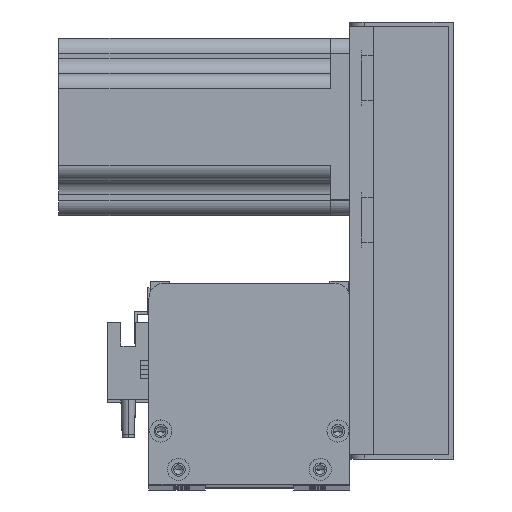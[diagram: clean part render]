
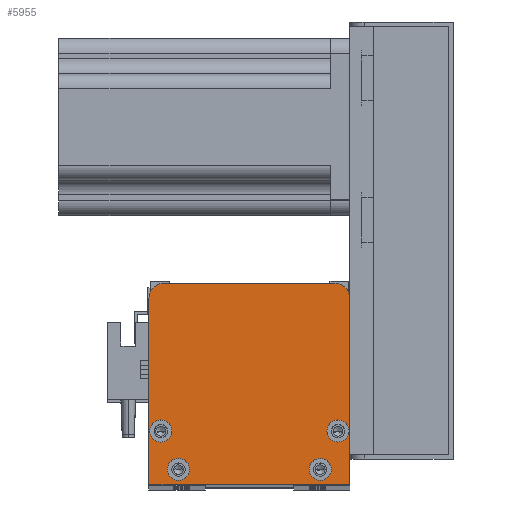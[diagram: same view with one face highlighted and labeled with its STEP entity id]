
A CAD part, top view. The second image highlights one B-rep face of the part: STEP entity #5955.
In plain terms, the highlighted planar face has unit normal (0, 0, 1).
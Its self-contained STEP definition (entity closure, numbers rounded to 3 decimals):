
#550 = CARTESIAN_POINT ( 'NONE',  ( 64., 18., 64. ) ) ;
#800 = CARTESIAN_POINT ( 'NONE',  ( 13.75, 5., 64. ) ) ;
#993 = EDGE_LOOP ( 'NONE', ( #11981, #7072 ) ) ;
#1032 = ORIENTED_EDGE ( 'NONE', *, *, #27610, .T. ) ;
#1228 = DIRECTION ( 'NONE',  ( 1., 0., 0. ) ) ;
#1304 = EDGE_CURVE ( 'NONE', #25345, #24108, #27240, .T. ) ;
#1311 = DIRECTION ( 'NONE',  ( 0., 0., 1. ) ) ;
#1542 = EDGE_CURVE ( 'NONE', #28177, #10509, #8511, .T. ) ;
#1931 = EDGE_CURVE ( 'NONE', #6952, #27049, #15950, .T. ) ;
#2111 = EDGE_CURVE ( 'NONE', #19552, #16239, #5982, .T. ) ;
#2239 = AXIS2_PLACEMENT_3D ( 'NONE', #26535, #6458, #24577 ) ;
#2373 = CARTESIAN_POINT ( 'NONE',  ( 5., 63., 64. ) ) ;
#2764 = DIRECTION ( 'NONE',  ( 0., 0., 1. ) ) ;
#2811 = ORIENTED_EDGE ( 'NONE', *, *, #13289, .F. ) ;
#3011 = CIRCLE ( 'NONE', #22827, 3.75 ) ;
#3163 = CARTESIAN_POINT ( 'NONE',  ( 10., 5., 64. ) ) ;
#3224 = ORIENTED_EDGE ( 'NONE', *, *, #23639, .F. ) ;
#3382 = CARTESIAN_POINT ( 'NONE',  ( 67.75, 18., 64. ) ) ;
#4022 = CARTESIAN_POINT ( 'NONE',  ( 61.75, 5., 64. ) ) ;
#4062 = DIRECTION ( 'NONE',  ( 0., 0., 1. ) ) ;
#4384 = DIRECTION ( 'NONE',  ( 0., 0., 1. ) ) ;
#4400 = VERTEX_POINT ( 'NONE', #12531 ) ;
#4544 = ORIENTED_EDGE ( 'NONE', *, *, #26927, .F. ) ;
#4779 = EDGE_CURVE ( 'NONE', #21329, #25345, #26345, .T. ) ;
#5279 = CARTESIAN_POINT ( 'NONE',  ( 4., 18., 64. ) ) ;
#5955 = ADVANCED_FACE ( 'NONE', ( #24538, #25580, #6111, #23102, #7526 ), #11297, .T. ) ;
#5982 = CIRCLE ( 'NONE', #10410, 3.75 ) ;
#6111 = FACE_BOUND ( 'NONE', #993, .T. ) ;
#6236 = ORIENTED_EDGE ( 'NONE', *, *, #1304, .T. ) ;
#6308 = DIRECTION ( 'NONE',  ( 1., 0., 0. ) ) ;
#6454 = CARTESIAN_POINT ( 'NONE',  ( 0., 0., 64. ) ) ;
#6458 = DIRECTION ( 'NONE',  ( 0., 0., 1. ) ) ;
#6952 = VERTEX_POINT ( 'NONE', #13082 ) ;
#7072 = ORIENTED_EDGE ( 'NONE', *, *, #1931, .F. ) ;
#7526 = FACE_OUTER_BOUND ( 'NONE', #12685, .T. ) ;
#7624 = CARTESIAN_POINT ( 'NONE',  ( 64., 18., 64. ) ) ;
#7700 = VERTEX_POINT ( 'NONE', #22662 ) ;
#8081 = AXIS2_PLACEMENT_3D ( 'NONE', #7624, #21273, #23544 ) ;
#8352 = CARTESIAN_POINT ( 'NONE',  ( 4., 18., 64. ) ) ;
#8395 = DIRECTION ( 'NONE',  ( 0., 1., 0. ) ) ;
#8465 = AXIS2_PLACEMENT_3D ( 'NONE', #2373, #2764, #27564 ) ;
#8511 = CIRCLE ( 'NONE', #13056, 3.75 ) ;
#8756 = ORIENTED_EDGE ( 'NONE', *, *, #1542, .F. ) ;
#9207 = ORIENTED_EDGE ( 'NONE', *, *, #2111, .F. ) ;
#9240 = CARTESIAN_POINT ( 'NONE',  ( 7.75, 18., 64. ) ) ;
#9787 = DIRECTION ( 'NONE',  ( 0., 0., 1. ) ) ;
#10397 = CIRCLE ( 'NONE', #27365, 3.75 ) ;
#10410 = AXIS2_PLACEMENT_3D ( 'NONE', #12683, #17350, #21553 ) ;
#10509 = VERTEX_POINT ( 'NONE', #3382 ) ;
#10604 = LINE ( 'NONE', #23451, #17676 ) ;
#10827 = EDGE_CURVE ( 'NONE', #13210, #4400, #22410, .T. ) ;
#11147 = CARTESIAN_POINT ( 'NONE',  ( 0., 0., 64. ) ) ;
#11297 = PLANE ( 'NONE',  #17126 ) ;
#11908 = VERTEX_POINT ( 'NONE', #11147 ) ;
#11981 = ORIENTED_EDGE ( 'NONE', *, *, #24836, .F. ) ;
#12188 = DIRECTION ( 'NONE',  ( 0., 0., 1. ) ) ;
#12531 = CARTESIAN_POINT ( 'NONE',  ( 0., 63., 64. ) ) ;
#12536 = DIRECTION ( 'NONE',  ( 1., 0., 0. ) ) ;
#12545 = CARTESIAN_POINT ( 'NONE',  ( 68., 0., 64. ) ) ;
#12683 = CARTESIAN_POINT ( 'NONE',  ( 58., 5., 64. ) ) ;
#12685 = EDGE_LOOP ( 'NONE', ( #28118, #23896, #14455, #1032, #15177, #6236 ) ) ;
#12701 = EDGE_LOOP ( 'NONE', ( #3224, #4544 ) ) ;
#13056 = AXIS2_PLACEMENT_3D ( 'NONE', #550, #9787, #18812 ) ;
#13082 = CARTESIAN_POINT ( 'NONE',  ( 6.25, 5., 64. ) ) ;
#13091 = DIRECTION ( 'NONE',  ( 1., 0., 0. ) ) ;
#13210 = VERTEX_POINT ( 'NONE', #28653 ) ;
#13289 = EDGE_CURVE ( 'NONE', #16239, #19552, #23884, .T. ) ;
#13416 = CARTESIAN_POINT ( 'NONE',  ( 68., 0., 64. ) ) ;
#14455 = ORIENTED_EDGE ( 'NONE', *, *, #23876, .T. ) ;
#14611 = AXIS2_PLACEMENT_3D ( 'NONE', #22829, #4062, #6308 ) ;
#15177 = ORIENTED_EDGE ( 'NONE', *, *, #4779, .T. ) ;
#15293 = CIRCLE ( 'NONE', #27614, 3.75 ) ;
#15950 = CIRCLE ( 'NONE', #2239, 3.75 ) ;
#16239 = VERTEX_POINT ( 'NONE', #4022 ) ;
#16418 = CARTESIAN_POINT ( 'NONE',  ( 68., 63., 64. ) ) ;
#16470 = CARTESIAN_POINT ( 'NONE',  ( 63., 68., 64. ) ) ;
#17126 = AXIS2_PLACEMENT_3D ( 'NONE', #18043, #4384, #20205 ) ;
#17350 = DIRECTION ( 'NONE',  ( 0., 0., 1. ) ) ;
#17551 = LINE ( 'NONE', #12545, #23888 ) ;
#17676 = VECTOR ( 'NONE', #21075, 1000. ) ;
#18043 = CARTESIAN_POINT ( 'NONE',  ( 0., 0., 64. ) ) ;
#18733 = EDGE_CURVE ( 'NONE', #24108, #13210, #10604, .T. ) ;
#18812 = DIRECTION ( 'NONE',  ( 1., 0., 0. ) ) ;
#19114 = DIRECTION ( 'NONE',  ( 1., 0., 0. ) ) ;
#19552 = VERTEX_POINT ( 'NONE', #24015 ) ;
#19639 = CARTESIAN_POINT ( 'NONE',  ( 60.25, 18., 64. ) ) ;
#19901 = EDGE_CURVE ( 'NONE', #10509, #28177, #20757, .T. ) ;
#19913 = DIRECTION ( 'NONE',  ( 0., 0., 1. ) ) ;
#20205 = DIRECTION ( 'NONE',  ( 1., 0., 0. ) ) ;
#20757 = CIRCLE ( 'NONE', #8081, 3.75 ) ;
#21075 = DIRECTION ( 'NONE',  ( -1., 0., 0. ) ) ;
#21273 = DIRECTION ( 'NONE',  ( 0., 0., 1. ) ) ;
#21329 = VERTEX_POINT ( 'NONE', #13416 ) ;
#21553 = DIRECTION ( 'NONE',  ( 1., 0., 0. ) ) ;
#21755 = VECTOR ( 'NONE', #8395, 1000. ) ;
#22410 = CIRCLE ( 'NONE', #8465, 5. ) ;
#22662 = CARTESIAN_POINT ( 'NONE',  ( 0.25, 18., 64. ) ) ;
#22827 = AXIS2_PLACEMENT_3D ( 'NONE', #8352, #1311, #12536 ) ;
#22829 = CARTESIAN_POINT ( 'NONE',  ( 58., 5., 64. ) ) ;
#23102 = FACE_BOUND ( 'NONE', #26890, .T. ) ;
#23451 = CARTESIAN_POINT ( 'NONE',  ( 68., 68., 64. ) ) ;
#23462 = DIRECTION ( 'NONE',  ( 0., 0., 1. ) ) ;
#23544 = DIRECTION ( 'NONE',  ( 1., 0., 0. ) ) ;
#23639 = EDGE_CURVE ( 'NONE', #25876, #7700, #3011, .T. ) ;
#23876 = EDGE_CURVE ( 'NONE', #4400, #11908, #27035, .T. ) ;
#23884 = CIRCLE ( 'NONE', #14611, 3.75 ) ;
#23888 = VECTOR ( 'NONE', #1228, 1000. ) ;
#23896 = ORIENTED_EDGE ( 'NONE', *, *, #10827, .T. ) ;
#24015 = CARTESIAN_POINT ( 'NONE',  ( 54.25, 5., 64. ) ) ;
#24108 = VERTEX_POINT ( 'NONE', #16470 ) ;
#24133 = CARTESIAN_POINT ( 'NONE',  ( 68., 0., 64. ) ) ;
#24150 = CARTESIAN_POINT ( 'NONE',  ( 63., 63., 64. ) ) ;
#24538 = FACE_BOUND ( 'NONE', #24654, .T. ) ;
#24577 = DIRECTION ( 'NONE',  ( 1., 0., 0. ) ) ;
#24654 = EDGE_LOOP ( 'NONE', ( #26148, #8756 ) ) ;
#24836 = EDGE_CURVE ( 'NONE', #27049, #6952, #10397, .T. ) ;
#25345 = VERTEX_POINT ( 'NONE', #16418 ) ;
#25561 = DIRECTION ( 'NONE',  ( 1., 0., 0. ) ) ;
#25580 = FACE_BOUND ( 'NONE', #12701, .T. ) ;
#25876 = VERTEX_POINT ( 'NONE', #9240 ) ;
#26148 = ORIENTED_EDGE ( 'NONE', *, *, #19901, .F. ) ;
#26281 = AXIS2_PLACEMENT_3D ( 'NONE', #24150, #19913, #13091 ) ;
#26345 = LINE ( 'NONE', #24133, #21755 ) ;
#26349 = VECTOR ( 'NONE', #26721, 1000. ) ;
#26535 = CARTESIAN_POINT ( 'NONE',  ( 10., 5., 64. ) ) ;
#26721 = DIRECTION ( 'NONE',  ( 0., -1., 0. ) ) ;
#26890 = EDGE_LOOP ( 'NONE', ( #2811, #9207 ) ) ;
#26927 = EDGE_CURVE ( 'NONE', #7700, #25876, #15293, .T. ) ;
#27035 = LINE ( 'NONE', #6454, #26349 ) ;
#27049 = VERTEX_POINT ( 'NONE', #800 ) ;
#27240 = CIRCLE ( 'NONE', #26281, 5. ) ;
#27365 = AXIS2_PLACEMENT_3D ( 'NONE', #3163, #12188, #19114 ) ;
#27564 = DIRECTION ( 'NONE',  ( 1., 0., 0. ) ) ;
#27610 = EDGE_CURVE ( 'NONE', #11908, #21329, #17551, .T. ) ;
#27614 = AXIS2_PLACEMENT_3D ( 'NONE', #5279, #23462, #25561 ) ;
#28118 = ORIENTED_EDGE ( 'NONE', *, *, #18733, .T. ) ;
#28177 = VERTEX_POINT ( 'NONE', #19639 ) ;
#28653 = CARTESIAN_POINT ( 'NONE',  ( 5., 68., 64. ) ) ;
